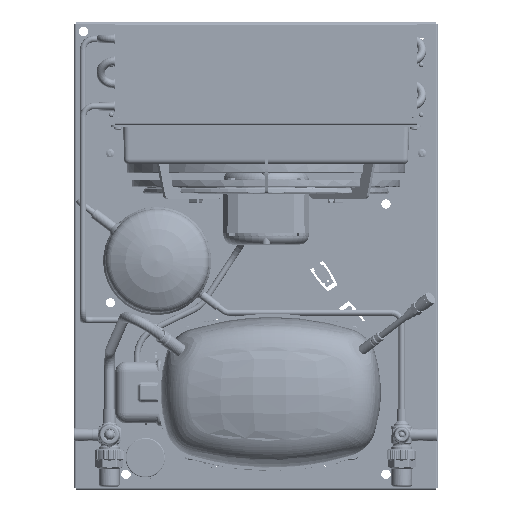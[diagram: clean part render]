
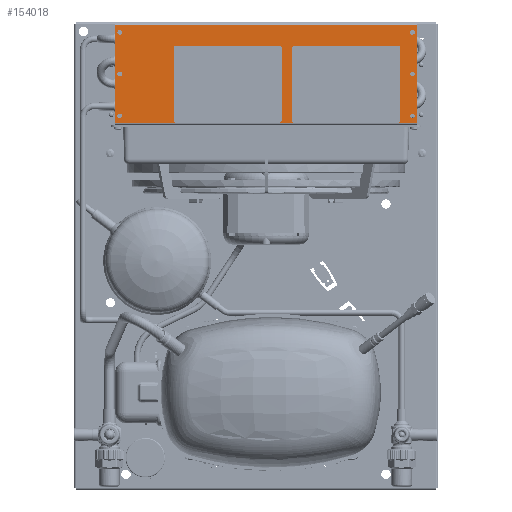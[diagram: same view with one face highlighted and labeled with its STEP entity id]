
A CAD part, top view. The second image highlights one B-rep face of the part: STEP entity #154018.
In plain terms, the highlighted planar face has unit normal (0, 0, 1).
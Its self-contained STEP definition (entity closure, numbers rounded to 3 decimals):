
#48853=CIRCLE('',#163121,2.25);
#48854=CIRCLE('',#163122,2.25);
#48855=CIRCLE('',#163123,2.25);
#48856=CIRCLE('',#163124,2.25);
#48857=CIRCLE('',#163125,2.25);
#48858=CIRCLE('',#163126,2.25);
#64334=ORIENTED_EDGE('',*,*,#91706,.F.);
#64335=ORIENTED_EDGE('',*,*,#91707,.F.);
#64336=ORIENTED_EDGE('',*,*,#91708,.F.);
#64337=ORIENTED_EDGE('',*,*,#91709,.F.);
#64338=ORIENTED_EDGE('',*,*,#91710,.F.);
#64339=ORIENTED_EDGE('',*,*,#91711,.F.);
#64340=ORIENTED_EDGE('',*,*,#91698,.T.);
#64341=ORIENTED_EDGE('',*,*,#91703,.F.);
#64342=ORIENTED_EDGE('',*,*,#91675,.F.);
#64343=ORIENTED_EDGE('',*,*,#91705,.T.);
#91675=EDGE_CURVE('',#106684,#106685,#116403,.T.);
#91698=EDGE_CURVE('',#106702,#106700,#116416,.T.);
#91703=EDGE_CURVE('',#106685,#106700,#116420,.T.);
#91705=EDGE_CURVE('',#106684,#106702,#116422,.T.);
#91706=EDGE_CURVE('',#106704,#106704,#48853,.T.);
#91707=EDGE_CURVE('',#106705,#106705,#48854,.T.);
#91708=EDGE_CURVE('',#106706,#106706,#48855,.T.);
#91709=EDGE_CURVE('',#106707,#106707,#48856,.T.);
#91710=EDGE_CURVE('',#106708,#106708,#48857,.T.);
#91711=EDGE_CURVE('',#106709,#106709,#48858,.T.);
#106684=VERTEX_POINT('',#319825);
#106685=VERTEX_POINT('',#319827);
#106700=VERTEX_POINT('',#319871);
#106702=VERTEX_POINT('',#319874);
#106704=VERTEX_POINT('',#319889);
#106705=VERTEX_POINT('',#319891);
#106706=VERTEX_POINT('',#319893);
#106707=VERTEX_POINT('',#319895);
#106708=VERTEX_POINT('',#319897);
#106709=VERTEX_POINT('',#319899);
#116403=LINE('',#319826,#123306);
#116416=LINE('',#319873,#123319);
#116420=LINE('',#319882,#123323);
#116422=LINE('',#319886,#123325);
#123306=VECTOR('',#179905,1000.);
#123319=VECTOR('',#179952,1000.);
#123323=VECTOR('',#179962,1000.);
#123325=VECTOR('',#179968,1000.);
#131617=EDGE_LOOP('',(#64334));
#131618=EDGE_LOOP('',(#64335));
#131619=EDGE_LOOP('',(#64336));
#131620=EDGE_LOOP('',(#64337));
#131621=EDGE_LOOP('',(#64338));
#131622=EDGE_LOOP('',(#64339));
#131623=EDGE_LOOP('',(#64340,#64341,#64342,#64343));
#141281=FACE_BOUND('',#131617,.T.);
#141282=FACE_BOUND('',#131618,.T.);
#141283=FACE_BOUND('',#131619,.T.);
#141284=FACE_BOUND('',#131620,.T.);
#141285=FACE_BOUND('',#131621,.T.);
#141286=FACE_BOUND('',#131622,.T.);
#141287=FACE_BOUND('',#131623,.T.);
#147827=PLANE('',#163120);
#154018=ADVANCED_FACE('',(#141281,#141282,#141283,#141284,#141285,#141286,
#141287),#147827,.F.);
#163120=AXIS2_PLACEMENT_3D('',#319887,#179969,#179970);
#163121=AXIS2_PLACEMENT_3D('',#319888,#179971,#179972);
#163122=AXIS2_PLACEMENT_3D('',#319890,#179973,#179974);
#163123=AXIS2_PLACEMENT_3D('',#319892,#179975,#179976);
#163124=AXIS2_PLACEMENT_3D('',#319894,#179977,#179978);
#163125=AXIS2_PLACEMENT_3D('',#319896,#179979,#179980);
#163126=AXIS2_PLACEMENT_3D('',#319898,#179981,#179982);
#179905=DIRECTION('',(0.,1.,0.));
#179952=DIRECTION('',(0.,1.,0.));
#179962=DIRECTION('',(1.,0.,0.));
#179968=DIRECTION('',(1.,0.,0.));
#179969=DIRECTION('',(0.,0.,-1.));
#179970=DIRECTION('',(-1.,0.,0.));
#179971=DIRECTION('',(0.,0.,1.));
#179972=DIRECTION('',(1.,0.,0.));
#179973=DIRECTION('',(0.,0.,1.));
#179974=DIRECTION('',(1.,0.,0.));
#179975=DIRECTION('',(0.,0.,1.));
#179976=DIRECTION('',(1.,0.,0.));
#179977=DIRECTION('',(0.,0.,1.));
#179978=DIRECTION('',(1.,0.,0.));
#179979=DIRECTION('',(0.,0.,1.));
#179980=DIRECTION('',(1.,0.,0.));
#179981=DIRECTION('',(0.,0.,1.));
#179982=DIRECTION('',(1.,0.,0.));
#319825=CARTESIAN_POINT('',(-145.,-46.85,0.));
#319826=CARTESIAN_POINT('',(-145.,-48.65,0.));
#319827=CARTESIAN_POINT('',(-145.,46.85,0.));
#319871=CARTESIAN_POINT('',(145.,46.85,0.));
#319873=CARTESIAN_POINT('',(145.,-48.65,0.));
#319874=CARTESIAN_POINT('',(145.,-46.85,0.));
#319882=CARTESIAN_POINT('',(-145.,46.85,0.));
#319886=CARTESIAN_POINT('',(-145.,-46.85,0.));
#319887=CARTESIAN_POINT('',(-145.,-48.65,0.));
#319888=CARTESIAN_POINT('',(140.75,0.15,0.));
#319889=CARTESIAN_POINT('',(143.,0.15,0.));
#319890=CARTESIAN_POINT('',(-140.75,0.15,0.));
#319891=CARTESIAN_POINT('',(-138.5,0.15,0.));
#319892=CARTESIAN_POINT('',(-140.75,40.15,0.));
#319893=CARTESIAN_POINT('',(-138.5,40.15,0.));
#319894=CARTESIAN_POINT('',(140.75,-40.15,0.));
#319895=CARTESIAN_POINT('',(143.,-40.15,0.));
#319896=CARTESIAN_POINT('',(140.75,40.15,0.));
#319897=CARTESIAN_POINT('',(143.,40.15,0.));
#319898=CARTESIAN_POINT('',(-140.75,-40.15,0.));
#319899=CARTESIAN_POINT('',(-138.5,-40.15,0.));
